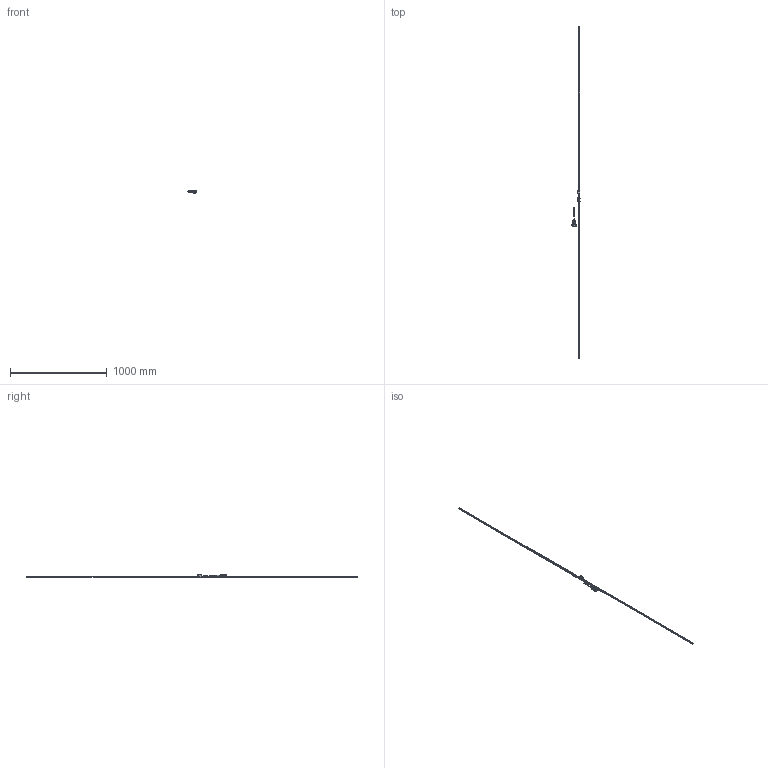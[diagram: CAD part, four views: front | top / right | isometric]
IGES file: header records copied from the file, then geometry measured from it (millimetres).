
Start section: Elysium IGES Interface
Global section: file name: 92HK:\20_商品設計\設計１課\個人\山室\05_作業中雑務\20220810_ST1300 3D HP掲載\ST1300-3400F_G.igs; native system: Creo Elements/Direct Modeling 18.1I  13-Aug-2016; preprocessor: Creo Element/Direct IGES_3D V2.2; author: Unknown; organization: Unknown; date: 20220816.114218; units: millimetre
Bounding box: 83 x 3440 x 30.1 mm (x, y, z)
Volume: 304155.7 mm3; surface area: 175580.9 mm2
Topology: 3 solids, 6 shells, 4064 faces, 11038 edges, 7150 vertices
Faces by surface type: bspline 4064
